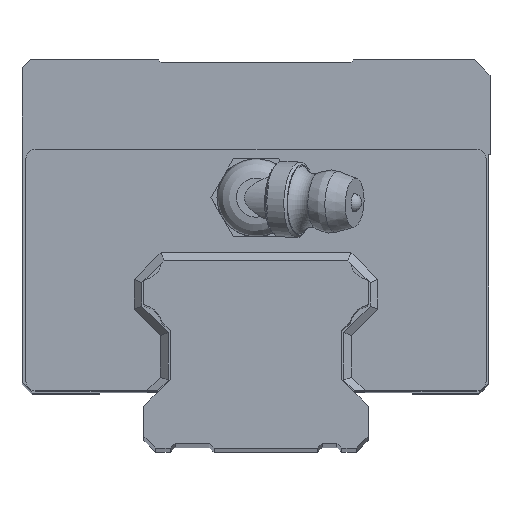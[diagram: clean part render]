
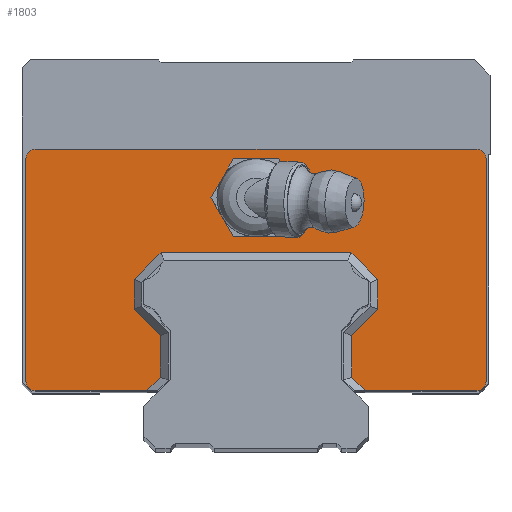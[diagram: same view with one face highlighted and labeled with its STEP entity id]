
A CAD part, top view. The second image highlights one B-rep face of the part: STEP entity #1803.
In plain terms, the highlighted planar face has unit normal (0, 0, 1).
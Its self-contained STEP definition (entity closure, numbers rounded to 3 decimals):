
#1617=CARTESIAN_POINT('',(2441.735,-3993.461,-50661.742));
#1618=VERTEX_POINT('',#1617);
#1619=CARTESIAN_POINT('',(2438.735,-3993.461,-50661.742));
#1620=DIRECTION('',(0.0,0.0,1.0));
#1621=DIRECTION('',(1.0,0.0,0.0));
#1622=AXIS2_PLACEMENT_3D('',#1619,#1620,#1621);
#1623=CIRCLE('',#1622,3.);
#1624=EDGE_CURVE('',#1618,#1618,#1623,.T.);
#1629=CARTESIAN_POINT('',(2416.135,-4012.261,-50661.742));
#1630=DIRECTION('',(0.0,0.0,1.0));
#1631=DIRECTION('',(1.0,0.0,0.0));
#1632=AXIS2_PLACEMENT_3D('',#1629,#1630,#1631);
#1633=PLANE('',#1632);
#1634=CARTESIAN_POINT('',(2448.535,-4011.846,-50661.742));
#1635=VERTEX_POINT('',#1634);
#1636=CARTESIAN_POINT('',(2448.535,-4007.595,-50661.742));
#1637=VERTEX_POINT('',#1636);
#1638=CARTESIAN_POINT('',(2448.535,-4011.846,-50661.742));
#1639=DIRECTION('',(0.0,1.0,0.0));
#1640=VECTOR('',#1639,4.251);
#1641=LINE('',#1638,#1640);
#1642=EDGE_CURVE('',#1635,#1637,#1641,.T.);
#1643=ORIENTED_EDGE('',*,*,#1642,.F.);
#1644=CARTESIAN_POINT('',(2449.95,-4013.261,-50661.742));
#1645=VERTEX_POINT('',#1644);
#1646=CARTESIAN_POINT('',(2449.95,-4013.261,-50661.742));
#1647=DIRECTION('',(-0.707,0.707,0.0));
#1648=VECTOR('',#1647,2.);
#1649=LINE('',#1646,#1648);
#1650=EDGE_CURVE('',#1645,#1635,#1649,.T.);
#1651=ORIENTED_EDGE('',*,*,#1650,.F.);
#1652=CARTESIAN_POINT('',(2461.335,-4013.261,-50661.742));
#1653=VERTEX_POINT('',#1652);
#1654=CARTESIAN_POINT('',(2449.95,-4013.261,-50661.742));
#1655=DIRECTION('',(1.0,0.0,0.0));
#1656=VECTOR('',#1655,11.386);
#1657=LINE('',#1654,#1656);
#1658=EDGE_CURVE('',#1645,#1653,#1657,.T.);
#1659=ORIENTED_EDGE('',*,*,#1658,.T.);
#1660=CARTESIAN_POINT('',(2462.335,-4012.261,-50661.742));
#1661=VERTEX_POINT('',#1660);
#1662=CARTESIAN_POINT('',(2461.335,-4012.261,-50661.742));
#1663=DIRECTION('',(0.0,0.0,1.0));
#1664=DIRECTION('',(1.0,0.0,0.0));
#1665=AXIS2_PLACEMENT_3D('',#1662,#1663,#1664);
#1666=CIRCLE('',#1665,1.);
#1667=EDGE_CURVE('',#1653,#1661,#1666,.T.);
#1668=ORIENTED_EDGE('',*,*,#1667,.T.);
#1669=CARTESIAN_POINT('',(2462.335,-3989.461,-50661.742));
#1670=VERTEX_POINT('',#1669);
#1671=CARTESIAN_POINT('',(2462.335,-4012.261,-50661.742));
#1672=DIRECTION('',(0.0,1.0,0.0));
#1673=VECTOR('',#1672,22.8);
#1674=LINE('',#1671,#1673);
#1675=EDGE_CURVE('',#1661,#1670,#1674,.T.);
#1676=ORIENTED_EDGE('',*,*,#1675,.T.);
#1677=CARTESIAN_POINT('',(2461.335,-3988.461,-50661.742));
#1678=VERTEX_POINT('',#1677);
#1679=CARTESIAN_POINT('',(2461.335,-3989.461,-50661.742));
#1680=DIRECTION('',(0.0,0.0,1.0));
#1681=DIRECTION('',(1.0,0.0,0.0));
#1682=AXIS2_PLACEMENT_3D('',#1679,#1680,#1681);
#1683=CIRCLE('',#1682,1.);
#1684=EDGE_CURVE('',#1670,#1678,#1683,.T.);
#1685=ORIENTED_EDGE('',*,*,#1684,.T.);
#1686=CARTESIAN_POINT('',(2416.135,-3988.461,-50661.742));
#1687=VERTEX_POINT('',#1686);
#1688=CARTESIAN_POINT('',(2461.335,-3988.461,-50661.742));
#1689=DIRECTION('',(-1.0,0.0,0.0));
#1690=VECTOR('',#1689,45.2);
#1691=LINE('',#1688,#1690);
#1692=EDGE_CURVE('',#1678,#1687,#1691,.T.);
#1693=ORIENTED_EDGE('',*,*,#1692,.T.);
#1694=CARTESIAN_POINT('',(2415.135,-3989.461,-50661.742));
#1695=VERTEX_POINT('',#1694);
#1696=CARTESIAN_POINT('',(2416.135,-3989.461,-50661.742));
#1697=DIRECTION('',(0.0,0.0,1.0));
#1698=DIRECTION('',(1.0,0.0,0.0));
#1699=AXIS2_PLACEMENT_3D('',#1696,#1697,#1698);
#1700=CIRCLE('',#1699,1.);
#1701=EDGE_CURVE('',#1687,#1695,#1700,.T.);
#1702=ORIENTED_EDGE('',*,*,#1701,.T.);
#1703=CARTESIAN_POINT('',(2415.135,-4012.261,-50661.742));
#1704=VERTEX_POINT('',#1703);
#1705=CARTESIAN_POINT('',(2415.135,-3989.461,-50661.742));
#1706=DIRECTION('',(0.0,-1.0,0.0));
#1707=VECTOR('',#1706,22.8);
#1708=LINE('',#1705,#1707);
#1709=EDGE_CURVE('',#1695,#1704,#1708,.T.);
#1710=ORIENTED_EDGE('',*,*,#1709,.T.);
#1711=CARTESIAN_POINT('',(2416.135,-4013.261,-50661.742));
#1712=VERTEX_POINT('',#1711);
#1713=CARTESIAN_POINT('',(2416.135,-4012.261,-50661.742));
#1714=DIRECTION('',(0.0,0.0,1.0));
#1715=DIRECTION('',(1.0,0.0,0.0));
#1716=AXIS2_PLACEMENT_3D('',#1713,#1714,#1715);
#1717=CIRCLE('',#1716,1.);
#1718=EDGE_CURVE('',#1704,#1712,#1717,.T.);
#1719=ORIENTED_EDGE('',*,*,#1718,.T.);
#1720=CARTESIAN_POINT('',(2427.521,-4013.261,-50661.742));
#1721=VERTEX_POINT('',#1720);
#1722=CARTESIAN_POINT('',(2416.135,-4013.261,-50661.742));
#1723=DIRECTION('',(1.0,0.0,0.0));
#1724=VECTOR('',#1723,11.386);
#1725=LINE('',#1722,#1724);
#1726=EDGE_CURVE('',#1712,#1721,#1725,.T.);
#1727=ORIENTED_EDGE('',*,*,#1726,.T.);
#1728=CARTESIAN_POINT('',(2428.935,-4011.846,-50661.742));
#1729=VERTEX_POINT('',#1728);
#1730=CARTESIAN_POINT('',(2428.935,-4011.846,-50661.742));
#1731=DIRECTION('',(-0.707,-0.707,0.0));
#1732=VECTOR('',#1731,2.);
#1733=LINE('',#1730,#1732);
#1734=EDGE_CURVE('',#1729,#1721,#1733,.T.);
#1735=ORIENTED_EDGE('',*,*,#1734,.F.);
#1736=CARTESIAN_POINT('',(2428.935,-4007.595,-50661.742));
#1737=VERTEX_POINT('',#1736);
#1738=CARTESIAN_POINT('',(2428.935,-4007.595,-50661.742));
#1739=DIRECTION('',(0.0,-1.0,0.0));
#1740=VECTOR('',#1739,4.251);
#1741=LINE('',#1738,#1740);
#1742=EDGE_CURVE('',#1737,#1729,#1741,.T.);
#1743=ORIENTED_EDGE('',*,*,#1742,.F.);
#1744=CARTESIAN_POINT('',(2426.235,-4004.895,-50661.742));
#1745=VERTEX_POINT('',#1744);
#1746=CARTESIAN_POINT('',(2426.235,-4004.895,-50661.742));
#1747=DIRECTION('',(0.707,-0.707,0.0));
#1748=VECTOR('',#1747,3.819);
#1749=LINE('',#1746,#1748);
#1750=EDGE_CURVE('',#1745,#1737,#1749,.T.);
#1751=ORIENTED_EDGE('',*,*,#1750,.F.);
#1752=CARTESIAN_POINT('',(2426.235,-4001.823,-50661.742));
#1753=VERTEX_POINT('',#1752);
#1754=CARTESIAN_POINT('',(2426.235,-4001.823,-50661.742));
#1755=DIRECTION('',(0.0,-1.0,0.0));
#1756=VECTOR('',#1755,3.071);
#1757=LINE('',#1754,#1756);
#1758=EDGE_CURVE('',#1753,#1745,#1757,.T.);
#1759=ORIENTED_EDGE('',*,*,#1758,.F.);
#1760=CARTESIAN_POINT('',(2428.998,-3999.061,-50661.742));
#1761=VERTEX_POINT('',#1760);
#1762=CARTESIAN_POINT('',(2428.998,-3999.061,-50661.742));
#1763=DIRECTION('',(-0.707,-0.707,0.0));
#1764=VECTOR('',#1763,3.907);
#1765=LINE('',#1762,#1764);
#1766=EDGE_CURVE('',#1761,#1753,#1765,.T.);
#1767=ORIENTED_EDGE('',*,*,#1766,.F.);
#1768=CARTESIAN_POINT('',(2448.473,-3999.061,-50661.742));
#1769=VERTEX_POINT('',#1768);
#1770=CARTESIAN_POINT('',(2448.473,-3999.061,-50661.742));
#1771=DIRECTION('',(-1.0,0.0,0.0));
#1772=VECTOR('',#1771,19.475);
#1773=LINE('',#1770,#1772);
#1774=EDGE_CURVE('',#1769,#1761,#1773,.T.);
#1775=ORIENTED_EDGE('',*,*,#1774,.F.);
#1776=CARTESIAN_POINT('',(2451.236,-4001.823,-50661.742));
#1777=VERTEX_POINT('',#1776);
#1778=CARTESIAN_POINT('',(2451.236,-4001.823,-50661.742));
#1779=DIRECTION('',(-0.707,0.707,0.0));
#1780=VECTOR('',#1779,3.907);
#1781=LINE('',#1778,#1780);
#1782=EDGE_CURVE('',#1777,#1769,#1781,.T.);
#1783=ORIENTED_EDGE('',*,*,#1782,.F.);
#1784=CARTESIAN_POINT('',(2451.236,-4004.895,-50661.742));
#1785=VERTEX_POINT('',#1784);
#1786=CARTESIAN_POINT('',(2451.236,-4004.895,-50661.742));
#1787=DIRECTION('',(0.,1.0,0.0));
#1788=VECTOR('',#1787,3.071);
#1789=LINE('',#1786,#1788);
#1790=EDGE_CURVE('',#1785,#1777,#1789,.T.);
#1791=ORIENTED_EDGE('',*,*,#1790,.F.);
#1792=CARTESIAN_POINT('',(2448.535,-4007.595,-50661.742));
#1793=DIRECTION('',(0.707,0.707,0.0));
#1794=VECTOR('',#1793,3.819);
#1795=LINE('',#1792,#1794);
#1796=EDGE_CURVE('',#1637,#1785,#1795,.T.);
#1797=ORIENTED_EDGE('',*,*,#1796,.F.);
#1798=EDGE_LOOP('',(#1643,#1651,#1659,#1668,#1676,#1685,#1693,#1702,#1710,#1719,#1727,#1735,#1743,#1751,#1759,#1767,#1775,#1783,#1791,#1797));
#1799=FACE_OUTER_BOUND('',#1798,.T.);
#1800=ORIENTED_EDGE('',*,*,#1624,.F.);
#1801=EDGE_LOOP('',(#1800));
#1802=FACE_BOUND('',#1801,.T.);
#1803=ADVANCED_FACE('',(#1799,#1802),#1633,.T.);
